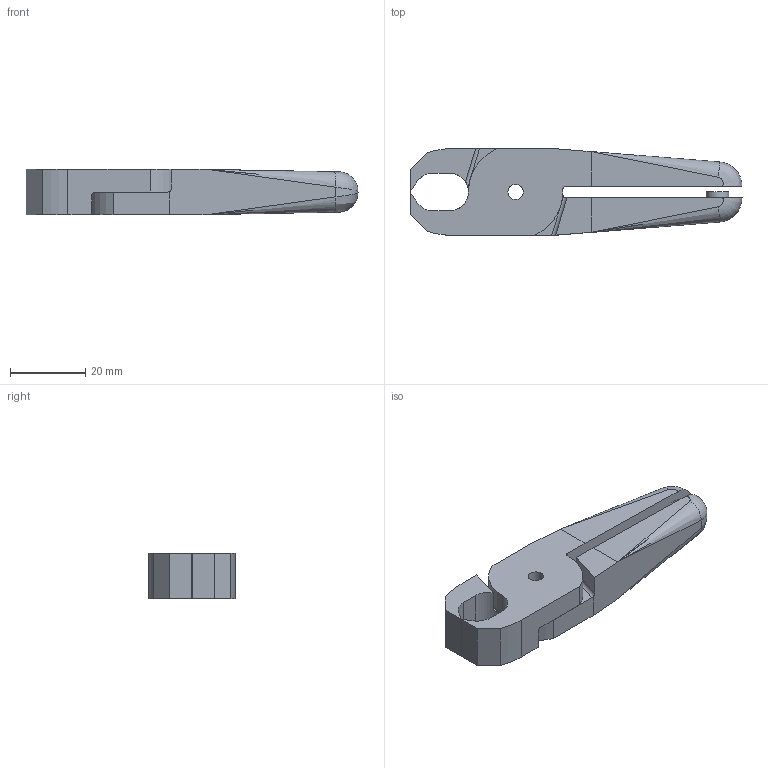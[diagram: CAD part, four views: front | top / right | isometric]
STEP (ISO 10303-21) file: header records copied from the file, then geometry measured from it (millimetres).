
FILE_DESCRIPTION (( 'STEP AP214' ), '1' );
FILE_NAME ('N20AE.STEP', '2019-11-29T03:58:00', ( '微软用户' ), ( '微软中国' ), 'SwSTEP 2.0', 'SolidWorks 2016', '' );
FILE_SCHEMA (( 'AUTOMOTIVE_DESIGN' ));
Length unit declared in the file: millimetre
Products named in the file (1): N20AE
Bounding box: 88 x 23 x 12 mm (x, y, z)
Surface area: 8173.3 mm2 (no closed solid volume)
Topology: 0 solids, 2 shells, 66 faces, 185 edges, 119 vertices
Faces by surface type: plane 36, cylinder 22, bspline 8
Full cylindrical faces by diameter (mm): 6 x2
Entity records: 7206 total; most frequent: CARTESIAN_POINT 5240, ORIENTED_EDGE 352, DIRECTION 300, EDGE_CURVE 180, VERTEX_POINT 119, VECTOR 108, LINE 108, AXIS2_PLACEMENT_3D 96
